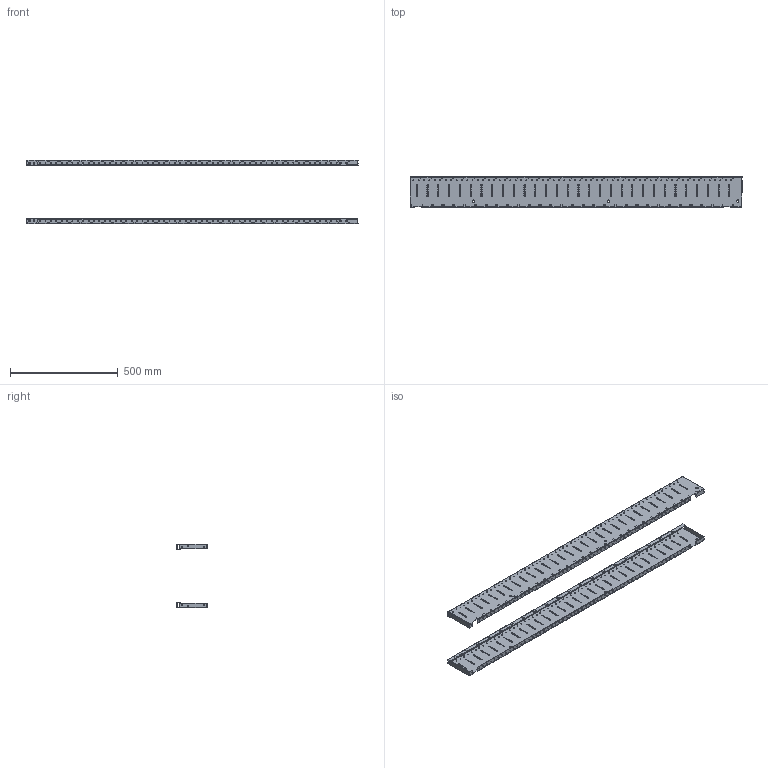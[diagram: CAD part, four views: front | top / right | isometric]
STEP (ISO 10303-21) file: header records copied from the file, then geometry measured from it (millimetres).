
FILE_DESCRIPTION(('CAx-IF Rec.Pracs.---Model Styling and Organization---1.2---2011-12-15','CAx-IF Rec.Pracs.---Geometric and Assembly Validation Properties---4.1---2014-06-16','CAx-IF Rec.Pracs.---PMI Polyline Presentation---2.0---2013-05-24'),'2;1');
FILE_NAME('R5M2RGBS30M.stp','2021-05-05T12:03:24+03:00',(''),(''),'STEP Interface 4.4 by CT CoreTechnologie','3D_Evolution4.4 by CT CoreTechnologie','');
FILE_SCHEMA(('AUTOMOTIVE_DESIGN { 1 0 10303 214 1 1 1 1 }'));
Length unit declared in the file: millimetre
Products named in the file (3): R5M2RGBS30M; RB.1270.00.00.0_-01; RB.1270.00.00.0_-00
Assembly tree (2 placements, depth 2):
  R5M2RGBS30M
    RB.1270.00.00.0_-01
    RB.1270.00.00.0_-00
Bounding box: 1540 x 141.5 x 295 mm (x, y, z)
Surface area: 1245209.1 mm2 (no closed solid volume)
Topology: 0 solids, 2 shells, 3203 faces, 10519 edges, 6880 vertices
Faces by surface type: cylinder 1936, plane 1267
Entity records: 145572 total; most frequent: ORIENTED_EDGE 21038, DIRECTION 20803, CARTESIAN_POINT 20605, EDGE_CURVE 10519, AXIS2_PLACEMENT_3D 7078, VERTEX_POINT 6880, VECTOR 6647, LINE 6647
